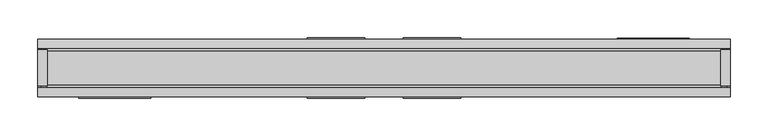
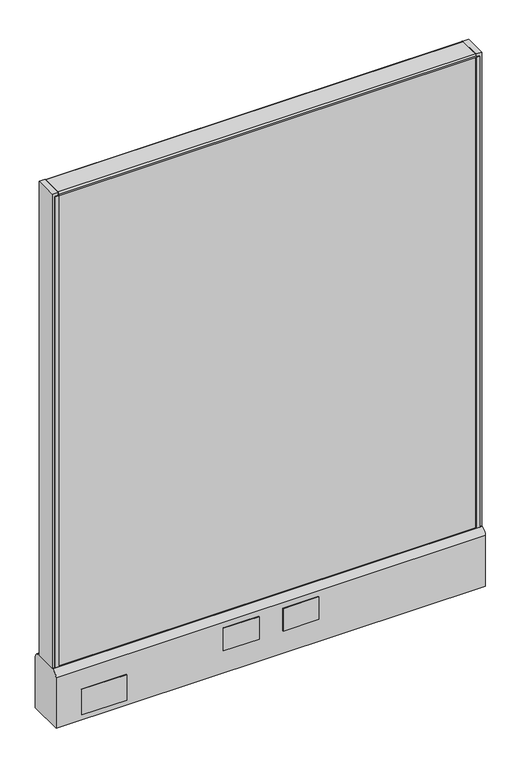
"""IFC4 building model written with IfcOpenShell, lengths in millimetres: furniture geometry."""

from ifc_helpers import new_model, si_unit, point, frame, frame_2d, origin, place, context, project, spatial, polyline, circle_curve, trimmed, segment, composite_curve, outline, extrude, source, transform, mapped, element, save
from ifc_brep_helpers import plane_surface, cylinder_surface, advanced_brep


def furniture_e3a1ffe6(model_context):
    return source(origin(), model_context, "Body", "SolidModel", [
        extrude(outline(polyline([(-101.6, 39.6875), (-25.4, 39.6875), (-25.4, 38.1), (-101.6, 38.1), (-101.6, 39.6875)])), frame((0.0, 0.0, 60.325), z_axis=(0.0, 0.0, 1.0), x_axis=(1.0, 0.0, 0.0)), (0.0, 0.0, 1.0), 50.8),
        extrude(outline(polyline([(25.4, 39.6875), (101.6, 39.6875), (101.6, 38.1), (25.4, 38.1), (25.4, 39.6875)])), frame((0.0, 0.0, 60.325), z_axis=(0.0, 0.0, 1.0), x_axis=(1.0, 0.0, 0.0)), (0.0, 0.0, 1.0), 50.8),
        extrude(outline(polyline([(-101.6, -38.1), (-25.4, -38.1), (-25.4, -39.6875), (-101.6, -39.6875), (-101.6, -38.1)])), frame((0.0, 0.0, 60.325), z_axis=(0.0, 0.0, 1.0), x_axis=(1.0, 0.0, 0.0)), (0.0, 0.0, 1.0), 50.8),
        extrude(outline(polyline([(25.4, -38.1), (101.6, -38.1), (101.6, -39.6875), (25.4, -39.6875), (25.4, -38.1)])), frame((0.0, 0.0, 60.325), z_axis=(0.0, 0.0, 1.0), x_axis=(1.0, 0.0, 0.0)), (0.0, 0.0, 1.0), 50.8),
        extrude(outline(polyline([(403.225, 38.1), (307.975, 38.1), (307.975, 39.6875), (403.225, 39.6875), (403.225, 38.1)])), frame((0.0, 0.0, 22.225), z_axis=(0.0, 0.0, 1.0), x_axis=(1.0, 0.0, 0.0)), (0.0, 0.0, 1.0), 57.15),
        extrude(outline(polyline([(-307.975, -39.6875), (-403.225, -39.6875), (-403.225, -38.1), (-307.975, -38.1), (-307.975, -39.6875)])), frame((0.0, 0.0, 22.225), z_axis=(0.0, 0.0, 1.0), x_axis=(1.0, 0.0, 0.0)), (0.0, 0.0, 1.0), 57.15),
        advanced_brep(
        [(400.05, 0.0, 0.0), (425.45, 0.0, 0.0), (412.75, 0.0, 0.0), (400.05, 0.0, 4.7625), (425.45, 0.0, 4.7625), (406.4, 0.0, 4.7625), (419.1, 0.0, 4.7625), (406.4, 0.0, 111.125), (419.1, 0.0, 111.125), (412.75, 0.0, 111.125)],
        [
            (0, 1, circle_curve(frame((412.75, 0.0, 0.0), z_axis=(0.0, 0.0, -1.0), x_axis=(1.0, 0.0, 0.0)), 12.7)),
            (1, 2),
            (2, 0),
            (1, 0, circle_curve(frame((412.75, 0.0, 0.0), z_axis=(0.0, 0.0, -1.0), x_axis=(1.0, 0.0, 0.0)), 12.7)),
            (3, 4, circle_curve(frame((412.75, 0.0, 4.7625), z_axis=(0.0, 0.0, -1.0), x_axis=(1.0, 0.0, 0.0)), 12.7)),
            (4, 1),
            (0, 3),
            (4, 3, circle_curve(frame((412.75, 0.0, 4.7625), z_axis=(0.0, 0.0, -1.0), x_axis=(1.0, 0.0, 0.0)), 12.7)),
            (5, 6, circle_curve(frame((412.75, 0.0, 4.7625), z_axis=(0.0, 0.0, -1.0), x_axis=(1.0, 0.0, 0.0)), 6.35)),
            (6, 4),
            (3, 5),
            (6, 5, circle_curve(frame((412.75, 0.0, 4.7625), z_axis=(0.0, 0.0, -1.0), x_axis=(1.0, 0.0, 0.0)), 6.35)),
            (7, 8, circle_curve(frame((412.75, 0.0, 111.125), z_axis=(0.0, 0.0, -1.0), x_axis=(1.0, 0.0, 0.0)), 6.35)),
            (8, 6),
            (5, 7),
            (8, 7, circle_curve(frame((412.75, 0.0, 111.125), z_axis=(0.0, 0.0, -1.0), x_axis=(1.0, 0.0, 0.0)), 6.35)),
            (9, 8),
            (7, 9),
        ],
        [
            plane_surface(frame((412.75, 0.0, 0.0), z_axis=(0.0, 0.0, -1.0), x_axis=(1.0, 0.0, 0.0))),
            cylinder_surface(frame((412.75, 0.0, 114.882153), z_axis=(0.0, 0.0, 1.0), x_axis=(1.0, 0.0, 0.0)), 12.7),
            plane_surface(frame((412.75, 0.0, 4.7625), z_axis=(0.0, 0.0, 1.0), x_axis=(1.0, 0.0, 0.0))),
            cylinder_surface(frame((412.75, 0.0, 114.882153), z_axis=(0.0, 0.0, 1.0), x_axis=(1.0, 0.0, 0.0)), 6.35),
            plane_surface(frame((412.75, 0.0, 111.125), z_axis=(0.0, 0.0, 1.0), x_axis=(1.0, 0.0, 0.0))),
        ],
        [
            (0, [[1, 2, 3]]),
            (0, [[4, -3, -2]]),
            (1, [[5, 6, -1, 7]]),
            (1, [[8, -7, -4, -6]]),
            (2, [[9, 10, -5, 11]]),
            (2, [[12, -11, -8, -10]]),
            (3, [[13, 14, -9, 15]]),
            (3, [[16, -15, -12, -14]]),
            (4, [[17, -13, 18]]),
            (4, [[-18, -16, -17]]),
        ],
    ),
        advanced_brep(
        [(-425.45, 0.0, 4.7625), (-400.05, 0.0, 4.7625), (-400.05, 0.0, 0.0), (-425.45, 0.0, 0.0), (-419.1, 0.0, 4.7625), (-406.4, 0.0, 4.7625), (-419.1, 0.0, 111.125), (-406.4, 0.0, 111.125), (-412.75, 0.0, 111.125), (-412.75, 0.0, 0.0)],
        [
            (0, 1, circle_curve(frame((-412.75, 0.0, 4.7625), z_axis=(0.0, 0.0, -1.0), x_axis=(1.0, 0.0, 0.0)), 12.7)),
            (1, 2),
            (2, 3, circle_curve(frame((-412.75, 0.0, 0.0), z_axis=(0.0, 0.0, 1.0), x_axis=(1.0, 0.0, 0.0)), 12.7)),
            (3, 0),
            (1, 0, circle_curve(frame((-412.75, 0.0, 4.7625), z_axis=(0.0, 0.0, -1.0), x_axis=(1.0, 0.0, 0.0)), 12.7)),
            (3, 2, circle_curve(frame((-412.75, 0.0, 0.0), z_axis=(0.0, 0.0, 1.0), x_axis=(1.0, 0.0, 0.0)), 12.7)),
            (4, 5, circle_curve(frame((-412.75, 0.0, 4.7625), z_axis=(0.0, 0.0, -1.0), x_axis=(1.0, 0.0, 0.0)), 6.35)),
            (5, 1),
            (0, 4),
            (5, 4, circle_curve(frame((-412.75, 0.0, 4.7625), z_axis=(0.0, 0.0, -1.0), x_axis=(1.0, 0.0, 0.0)), 6.35)),
            (6, 7, circle_curve(frame((-412.75, 0.0, 111.125), z_axis=(0.0, 0.0, -1.0), x_axis=(1.0, 0.0, 0.0)), 6.35)),
            (7, 5),
            (4, 6),
            (7, 6, circle_curve(frame((-412.75, 0.0, 111.125), z_axis=(0.0, 0.0, -1.0), x_axis=(1.0, 0.0, 0.0)), 6.35)),
            (8, 7),
            (6, 8),
            (2, 9),
            (9, 3),
        ],
        [
            cylinder_surface(frame((-412.75, 0.0, 123.825), z_axis=(0.0, 0.0, 1.0), x_axis=(1.0, 0.0, 0.0)), 12.7),
            plane_surface(frame((-412.75, 0.0, 4.7625), z_axis=(0.0, 0.0, 1.0), x_axis=(1.0, 0.0, 0.0))),
            cylinder_surface(frame((-412.75, 0.0, 123.825), z_axis=(0.0, 0.0, 1.0), x_axis=(1.0, 0.0, 0.0)), 6.35),
            plane_surface(frame((-412.75, 0.0, 111.125), z_axis=(0.0, 0.0, 1.0), x_axis=(1.0, 0.0, 0.0))),
            plane_surface(frame((-412.75, 0.0, 0.0), z_axis=(0.0, 0.0, -1.0), x_axis=(1.0, 0.0, 0.0))),
        ],
        [
            (0, [[1, 2, 3, 4]]),
            (0, [[5, -4, 6, -2]]),
            (1, [[7, 8, -1, 9]]),
            (1, [[10, -9, -5, -8]]),
            (2, [[11, 12, -7, 13]]),
            (2, [[14, -13, -10, -12]]),
            (3, [[15, -11, 16]]),
            (3, [[-16, -14, -15]]),
            (4, [[-3, 17, 18]]),
            (4, [[-6, -18, -17]]),
        ],
    ),
        extrude(outline(polyline([(-457.2, 23.8125), (-444.5, 23.8125), (-444.5, -23.8125), (-457.2, -23.8125), (-457.2, 23.8125)])), frame((0.0, 0.0, 136.525), z_axis=(0.0, 0.0, 1.0), x_axis=(1.0, 0.0, 0.0)), (0.0, 0.0, 1.0), 1066.8),
        extrude(outline(polyline([(444.5, -23.8125), (444.5, 23.8125), (457.2, 23.8125), (457.2, -23.8125), (444.5, -23.8125)])), frame((0.0, 0.0, 136.525), z_axis=(0.0, 0.0, 1.0), x_axis=(1.0, 0.0, 0.0)), (0.0, 0.0, 1.0), 1066.8),
        extrude(outline(polyline([(-444.5, 25.4), (-444.5, 23.8125), (-452.4375, 23.8125), (-452.4375, 25.4), (-444.5, 25.4)])), frame((0.0, 0.0, 136.525), z_axis=(0.0, 0.0, 1.0), x_axis=(1.0, 0.0, 0.0)), (0.0, 0.0, 1.0), 1060.45),
        extrude(outline(polyline([(-444.5, -25.4), (-452.4375, -25.4), (-452.4375, -23.8125), (-444.5, -23.8125), (-444.5, -25.4)])), frame((0.0, 0.0, 136.525), z_axis=(0.0, 0.0, 1.0), x_axis=(1.0, 0.0, 0.0)), (0.0, 0.0, 1.0), 1060.45),
        extrude(outline(polyline([(452.4375, 23.8125), (444.5, 23.8125), (444.5, 25.4), (452.4375, 25.4), (452.4375, 23.8125)])), frame((0.0, 0.0, 136.525), z_axis=(0.0, 0.0, 1.0), x_axis=(1.0, 0.0, 0.0)), (0.0, 0.0, 1.0), 1060.45),
        extrude(outline(polyline([(444.5, -25.4), (444.5, -23.8125), (452.4375, -23.8125), (452.4375, -25.4), (444.5, -25.4)])), frame((0.0, 0.0, 136.525), z_axis=(0.0, 0.0, 1.0), x_axis=(1.0, 0.0, 0.0)), (0.0, 0.0, 1.0), 1060.45),
        extrude(outline(composite_curve([segment(trimmed(circle_curve(frame_2d((22.225, 1200.15)), 3.175), [point((22.225, 1203.325))], [point((25.4, 1200.15))], False, "CARTESIAN"), True, "CONTINUOUS"), segment(polyline([(25.4, 1200.15), (25.4, 1196.975), (-25.4, 1196.975), (-25.4, 1200.15)]), True, "CONTINUOUS"), segment(trimmed(circle_curve(frame_2d((-22.225, 1200.15)), 3.175), [point((-25.4, 1200.15))], [point((-22.225, 1203.325))], False, "CARTESIAN"), True, "CONTINUOUS"), segment(polyline([(-22.225, 1203.325), (22.225, 1203.325)]), True, "CONTINUOUS")], self_intersect=False)), frame((-444.5, 0.0, 0.0), z_axis=(1.0, 0.0, 0.0), x_axis=(0.0, 1.0, 0.0)), (0.0, 0.0, 1.0), 889.0),
        extrude(outline(composite_curve([segment(trimmed(circle_curve(frame_2d((25.4, 123.825)), 12.7), [point((25.4, 136.525))], [point((38.1, 123.825))], False, "CARTESIAN"), True, "CONTINUOUS"), segment(polyline([(38.1, 123.825), (38.1, 9.525), (-38.1, 9.525), (-38.1, 123.825)]), True, "CONTINUOUS"), segment(trimmed(circle_curve(frame_2d((-25.4, 123.825)), 12.7), [point((-38.1, 123.825))], [point((-25.4, 136.525))], False, "CARTESIAN"), True, "CONTINUOUS"), segment(polyline([(-25.4, 136.525), (25.4, 136.525)]), True, "CONTINUOUS")], self_intersect=False)), frame((-457.2, 0.0, 0.0), z_axis=(1.0, 0.0, 0.0), x_axis=(0.0, 1.0, 0.0)), (0.0, 0.0, 1.0), 914.4),
        extrude(outline(polyline([(444.5, 23.8125), (444.5, -23.8125), (-444.5, -23.8125), (-444.5, 23.8125), (444.5, 23.8125)])), frame((0.0, 0.0, 136.525), z_axis=(0.0, 0.0, 1.0), x_axis=(1.0, 0.0, 0.0)), (0.0, 0.0, 1.0), 1060.45),
    ])


if __name__ == "__main__":
    model = new_model("IFC4")
    model_context = context("Model", 3, world=origin())
    ifc_project = project(units=[si_unit("LENGTHUNIT", "METRE", prefix="MILLI")], contexts=[model_context])
    site = spatial("IfcSite", under=ifc_project)
    building = spatial("IfcBuilding", under=site)
    placement = place(None, origin())
    furniture_shape = furniture_e3a1ffe6(model_context)
    element("IfcFurniture", 1, ObjectType="HermanMiller_ActionOffice_A1110_Hard-SurfacedPanelStandardBase : 47\"H x 36\"W-G", at=placement, inside=building, context=model_context, shape_type="MappedRepresentation", body=[
        mapped(furniture_shape, transform((0.0, 0.0, 0.0), x_axis=(1.0, 0.0, 0.0), y_axis=(0.0, 1.0, 0.0), z_axis=(0.0, 0.0, 1.0))),
    ])
    save(model, "model.ifc")
